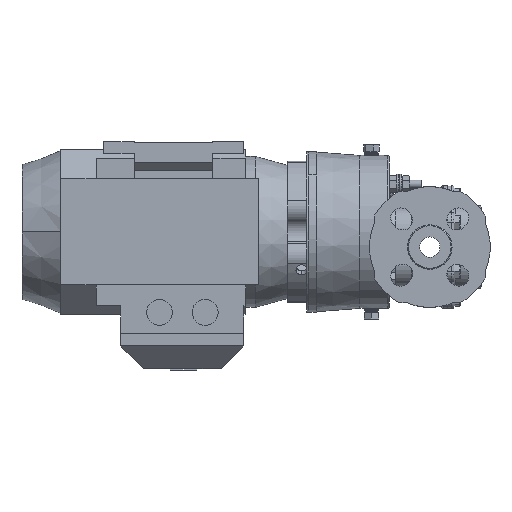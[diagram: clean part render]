
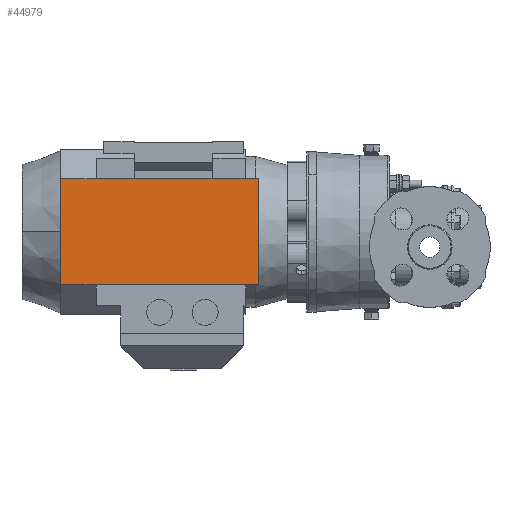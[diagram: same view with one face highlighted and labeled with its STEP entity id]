
A CAD part, left-side view. The second image highlights one B-rep face of the part: STEP entity #44979.
In plain terms, the highlighted planar face has unit normal (-1, 0, 0).
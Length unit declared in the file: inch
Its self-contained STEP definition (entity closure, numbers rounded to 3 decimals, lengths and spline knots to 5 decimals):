
#921 = DIRECTION ( 'NONE',  ( 0., 0., -1. ) ) ;
#1996 = DIRECTION ( 'NONE',  ( -1., 0., 0. ) ) ;
#2250 = DIRECTION ( 'NONE',  ( 0., -1., 0. ) ) ;
#4365 = ORIENTED_EDGE ( 'NONE', *, *, #73727, .F. ) ;
#4441 = VECTOR ( 'NONE', #63034, 39.37008 ) ;
#6975 = CARTESIAN_POINT ( 'NONE',  ( -2.55906, 5.88651, 2.11361 ) ) ;
#8036 = EDGE_CURVE ( 'NONE', #49796, #27273, #28668, .T. ) ;
#8569 = VERTEX_POINT ( 'NONE', #70199 ) ;
#9137 = CARTESIAN_POINT ( 'NONE',  ( -2.55906, 12.02824, -1.17561 ) ) ;
#14971 = ORIENTED_EDGE ( 'NONE', *, *, #61133, .T. ) ;
#17999 = CARTESIAN_POINT ( 'NONE',  ( -2.55906, 12.02824, -1.17561 ) ) ;
#24880 = CARTESIAN_POINT ( 'NONE',  ( -2.55906, 12.02824, 2.11361 ) ) ;
#25904 = LINE ( 'NONE', #54285, #38503 ) ;
#25954 = CARTESIAN_POINT ( 'NONE',  ( -2.55906, 12.02824, -1.17561 ) ) ;
#27273 = VERTEX_POINT ( 'NONE', #6975 ) ;
#28668 = LINE ( 'NONE', #64651, #37279 ) ;
#30036 = ORIENTED_EDGE ( 'NONE', *, *, #54744, .T. ) ;
#31045 = VECTOR ( 'NONE', #2250, 39.37008 ) ;
#31796 = AXIS2_PLACEMENT_3D ( 'NONE', #17999, #1996, #71482 ) ;
#32500 = CARTESIAN_POINT ( 'NONE',  ( -2.55906, 12.02824, 2.11361 ) ) ;
#32876 = DIRECTION ( 'NONE',  ( 0., -1., 0. ) ) ;
#36037 = EDGE_CURVE ( 'NONE', #71983, #27273, #51976, .T. ) ;
#37279 = VECTOR ( 'NONE', #74992, 39.37008 ) ;
#38011 = VERTEX_POINT ( 'NONE', #25954 ) ;
#38503 = VECTOR ( 'NONE', #55052, 39.37008 ) ;
#39363 = LINE ( 'NONE', #32500, #40629 ) ;
#40629 = VECTOR ( 'NONE', #32876, 39.37008 ) ;
#40802 = CARTESIAN_POINT ( 'NONE',  ( -2.55906, 10.92588, 2.11361 ) ) ;
#41937 = CARTESIAN_POINT ( 'NONE',  ( -2.55906, 12.02824, 2.11361 ) ) ;
#43551 = ORIENTED_EDGE ( 'NONE', *, *, #62843, .T. ) ;
#44979 = ADVANCED_FACE ( 'NONE', ( #47813 ), #70370, .T. ) ;
#47813 = FACE_OUTER_BOUND ( 'NONE', #64136, .T. ) ;
#48690 = CARTESIAN_POINT ( 'NONE',  ( -2.55906, 10.92588, 2.11361 ) ) ;
#49796 = VERTEX_POINT ( 'NONE', #58167 ) ;
#51976 = LINE ( 'NONE', #40802, #4441 ) ;
#54285 = CARTESIAN_POINT ( 'NONE',  ( -2.55906, 10.92588, -1.17561 ) ) ;
#54567 = LINE ( 'NONE', #9137, #31045 ) ;
#54744 = EDGE_CURVE ( 'NONE', #59947, #38011, #60092, .T. ) ;
#55052 = DIRECTION ( 'NONE',  ( 0., -1., 0. ) ) ;
#58167 = CARTESIAN_POINT ( 'NONE',  ( -2.55906, 5.88651, -1.17561 ) ) ;
#59492 = VECTOR ( 'NONE', #921, 39.37008 ) ;
#59947 = VERTEX_POINT ( 'NONE', #41937 ) ;
#60092 = LINE ( 'NONE', #24880, #59492 ) ;
#61133 = EDGE_CURVE ( 'NONE', #38011, #8569, #54567, .T. ) ;
#62843 = EDGE_CURVE ( 'NONE', #8569, #49796, #25904, .T. ) ;
#63034 = DIRECTION ( 'NONE',  ( 0., -1., 0. ) ) ;
#64136 = EDGE_LOOP ( 'NONE', ( #66233, #4365, #30036, #14971, #43551, #65769 ) ) ;
#64651 = CARTESIAN_POINT ( 'NONE',  ( -2.55906, 5.88651, -1.17561 ) ) ;
#65769 = ORIENTED_EDGE ( 'NONE', *, *, #8036, .T. ) ;
#66233 = ORIENTED_EDGE ( 'NONE', *, *, #36037, .F. ) ;
#70199 = CARTESIAN_POINT ( 'NONE',  ( -2.55906, 10.92588, -1.17561 ) ) ;
#70370 = PLANE ( 'NONE',  #31796 ) ;
#71482 = DIRECTION ( 'NONE',  ( 0., 1., 0. ) ) ;
#71983 = VERTEX_POINT ( 'NONE', #48690 ) ;
#73727 = EDGE_CURVE ( 'NONE', #59947, #71983, #39363, .T. ) ;
#74992 = DIRECTION ( 'NONE',  ( 0., 0., 1. ) ) ;
